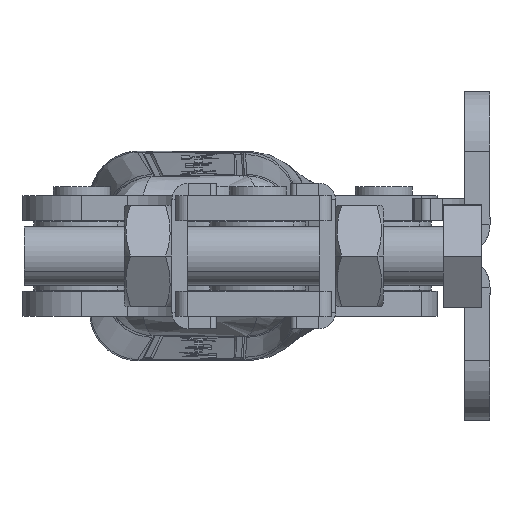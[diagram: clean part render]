
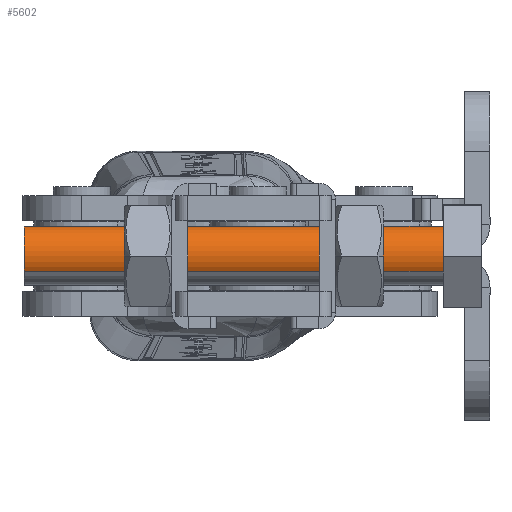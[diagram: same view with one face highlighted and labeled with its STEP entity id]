
A CAD part, left-side view. The second image highlights one B-rep face of the part: STEP entity #5602.
In plain terms, the highlighted cylindrical face has radius 5 mm (diameter 10 mm), a partial arc.
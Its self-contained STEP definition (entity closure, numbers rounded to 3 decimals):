
#733 = VERTEX_POINT ( 'NONE', #4918 ) ;
#1719 = AXIS2_PLACEMENT_3D ( 'NONE', #4378, #8304, #20051 ) ;
#1809 = DIRECTION ( 'NONE',  ( 0., 0., 1. ) ) ;
#1886 = CIRCLE ( 'NONE', #25222, 5. ) ;
#2074 = CIRCLE ( 'NONE', #19393, 5. ) ;
#2474 = EDGE_LOOP ( 'NONE', ( #4389, #12237, #6542, #13980 ) ) ;
#2794 = VERTEX_POINT ( 'NONE', #8896 ) ;
#3174 = DIRECTION ( 'NONE',  ( 0., 1., 0. ) ) ;
#3961 = LINE ( 'NONE', #9114, #19591 ) ;
#4274 = VERTEX_POINT ( 'NONE', #18603 ) ;
#4378 = CARTESIAN_POINT ( 'NONE',  ( 0., -70., 0. ) ) ;
#4389 = ORIENTED_EDGE ( 'NONE', *, *, #10331, .F. ) ;
#4918 = CARTESIAN_POINT ( 'NONE',  ( 0., -70., 5. ) ) ;
#5288 = LINE ( 'NONE', #14886, #5921 ) ;
#5602 = ADVANCED_FACE ( 'NONE', ( #23678 ), #13255, .T. ) ;
#5921 = VECTOR ( 'NONE', #3174, 1000. ) ;
#6542 = ORIENTED_EDGE ( 'NONE', *, *, #20236, .T. ) ;
#8304 = DIRECTION ( 'NONE',  ( 0., 1., 0. ) ) ;
#8730 = EDGE_CURVE ( 'NONE', #4274, #16241, #1886, .T. ) ;
#8896 = CARTESIAN_POINT ( 'NONE',  ( 0., -70., -5. ) ) ;
#9088 = DIRECTION ( 'NONE',  ( 0., -1., 0. ) ) ;
#9114 = CARTESIAN_POINT ( 'NONE',  ( 0., -70., -5. ) ) ;
#10331 = EDGE_CURVE ( 'NONE', #2794, #16241, #3961, .T. ) ;
#12198 = EDGE_CURVE ( 'NONE', #733, #2794, #2074, .T. ) ;
#12237 = ORIENTED_EDGE ( 'NONE', *, *, #12198, .F. ) ;
#13133 = DIRECTION ( 'NONE',  ( 0., 1., 0. ) ) ;
#13255 = CYLINDRICAL_SURFACE ( 'NONE', #1719, 5. ) ;
#13532 = DIRECTION ( 'NONE',  ( 0., -1., 0. ) ) ;
#13980 = ORIENTED_EDGE ( 'NONE', *, *, #8730, .T. ) ;
#14886 = CARTESIAN_POINT ( 'NONE',  ( 0., -70., 5. ) ) ;
#16241 = VERTEX_POINT ( 'NONE', #16586 ) ;
#16586 = CARTESIAN_POINT ( 'NONE',  ( 0., 0., -5. ) ) ;
#18603 = CARTESIAN_POINT ( 'NONE',  ( 0., 0., 5. ) ) ;
#19393 = AXIS2_PLACEMENT_3D ( 'NONE', #20834, #9088, #22784 ) ;
#19591 = VECTOR ( 'NONE', #13133, 1000. ) ;
#20051 = DIRECTION ( 'NONE',  ( 0., 0., 1. ) ) ;
#20236 = EDGE_CURVE ( 'NONE', #733, #4274, #5288, .T. ) ;
#20834 = CARTESIAN_POINT ( 'NONE',  ( 0., -70., 0. ) ) ;
#22784 = DIRECTION ( 'NONE',  ( 0., 0., -1. ) ) ;
#23678 = FACE_OUTER_BOUND ( 'NONE', #2474, .T. ) ;
#25222 = AXIS2_PLACEMENT_3D ( 'NONE', #25242, #13532, #1809 ) ;
#25242 = CARTESIAN_POINT ( 'NONE',  ( 0., 0., 0. ) ) ;
